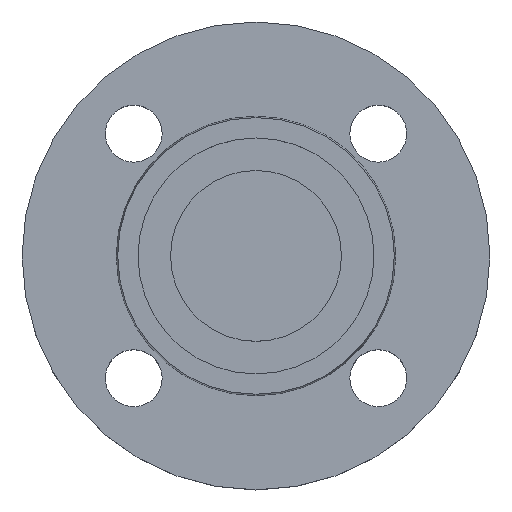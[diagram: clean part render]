
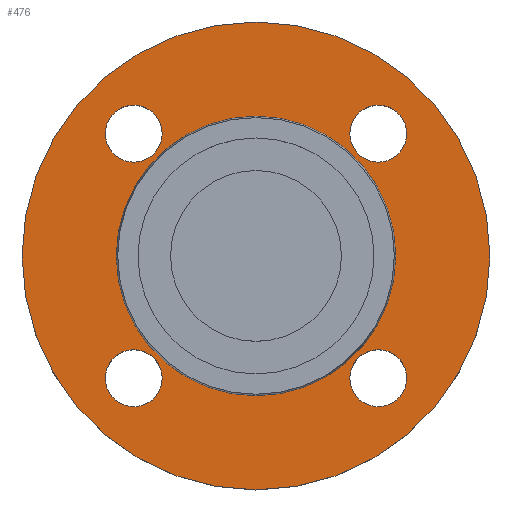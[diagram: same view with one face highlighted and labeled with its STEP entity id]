
A CAD part, top view. The second image highlights one B-rep face of the part: STEP entity #476.
In plain terms, the highlighted planar face has unit normal (0, 0, 1).
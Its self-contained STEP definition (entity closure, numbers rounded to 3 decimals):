
#2 = CARTESIAN_POINT ( 'NONE',  ( 0., 0., -2. ) ) ;
#3 = DIRECTION ( 'NONE',  ( 0., 0., -1. ) ) ;
#20 = DIRECTION ( 'NONE',  ( 1., 0., 0. ) ) ;
#21 = CARTESIAN_POINT ( 'NONE',  ( 57.5, 0., -2. ) ) ;
#26 = CARTESIAN_POINT ( 'NONE',  ( 0., 0., -2. ) ) ;
#27 = DIRECTION ( 'NONE',  ( 0., 0., -1. ) ) ;
#28 = DIRECTION ( 'NONE',  ( -1., 0., 0. ) ) ;
#46 = CIRCLE ( 'NONE', #335, 7. ) ;
#57 = DIRECTION ( 'NONE',  ( 0., 0., -1. ) ) ;
#59 = DIRECTION ( 'NONE',  ( -1., 0., 0. ) ) ;
#60 = DIRECTION ( 'NONE',  ( 0., 0., -1. ) ) ;
#61 = CARTESIAN_POINT ( 'NONE',  ( 0., 0., -2. ) ) ;
#73 = AXIS2_PLACEMENT_3D ( 'NONE', #329, #330, #333 ) ;
#79 = CARTESIAN_POINT ( 'NONE',  ( 30.052, 30.052, -2. ) ) ;
#88 = FACE_BOUND ( 'NONE', #759, .T. ) ;
#89 = AXIS2_PLACEMENT_3D ( 'NONE', #855, #856, #857 ) ;
#94 = FACE_BOUND ( 'NONE', #610, .T. ) ;
#119 = DIRECTION ( 'NONE',  ( -1., 0., 0. ) ) ;
#125 = EDGE_CURVE ( 'NONE', #507, #538, #172, .T. ) ;
#129 = DIRECTION ( 'NONE',  ( 0., 0., -1. ) ) ;
#143 = DIRECTION ( 'NONE',  ( 1., 0., 0. ) ) ;
#144 = DIRECTION ( 'NONE',  ( 0., 0., -1. ) ) ;
#151 = CARTESIAN_POINT ( 'NONE',  ( -30.052, -30.052, -2. ) ) ;
#154 = AXIS2_PLACEMENT_3D ( 'NONE', #250, #257, #256 ) ;
#155 = CARTESIAN_POINT ( 'NONE',  ( -23.052, -30.052, -2. ) ) ;
#164 = CARTESIAN_POINT ( 'NONE',  ( 37.052, -30.052, -2. ) ) ;
#172 = CIRCLE ( 'NONE', #89, 7. ) ;
#192 = AXIS2_PLACEMENT_3D ( 'NONE', #444, #450, #263 ) ;
#195 = CARTESIAN_POINT ( 'NONE',  ( 23.052, -30.052, -2. ) ) ;
#196 = CARTESIAN_POINT ( 'NONE',  ( -37.052, 30.052, -2. ) ) ;
#203 = EDGE_CURVE ( 'NONE', #792, #504, #611, .T. ) ;
#210 = CIRCLE ( 'NONE', #154, 7. ) ;
#215 = FACE_BOUND ( 'NONE', #487, .T. ) ;
#217 = DIRECTION ( 'NONE',  ( 0., 0., -1. ) ) ;
#222 = FACE_OUTER_BOUND ( 'NONE', #742, .T. ) ;
#243 = PLANE ( 'NONE',  #192 ) ;
#250 = CARTESIAN_POINT ( 'NONE',  ( 30.052, 30.052, -2. ) ) ;
#256 = DIRECTION ( 'NONE',  ( 1., 0., 0. ) ) ;
#257 = DIRECTION ( 'NONE',  ( 0., 0., -1. ) ) ;
#262 = CARTESIAN_POINT ( 'NONE',  ( 34.353, 0., -2. ) ) ;
#263 = DIRECTION ( 'NONE',  ( 1., 0., 0. ) ) ;
#278 = DIRECTION ( 'NONE',  ( -1., 0., 0. ) ) ;
#293 = EDGE_CURVE ( 'NONE', #787, #757, #392, .T. ) ;
#299 = CIRCLE ( 'NONE', #395, 34.353 ) ;
#324 = CIRCLE ( 'NONE', #73, 7. ) ;
#329 = CARTESIAN_POINT ( 'NONE',  ( -30.052, 30.052, -2. ) ) ;
#330 = DIRECTION ( 'NONE',  ( 0., 0., -1. ) ) ;
#333 = DIRECTION ( 'NONE',  ( 1., 0., 0. ) ) ;
#335 = AXIS2_PLACEMENT_3D ( 'NONE', #456, #217, #452 ) ;
#336 = AXIS2_PLACEMENT_3D ( 'NONE', #348, #349, #351 ) ;
#342 = CARTESIAN_POINT ( 'NONE',  ( -57.5, 0., -2. ) ) ;
#348 = CARTESIAN_POINT ( 'NONE',  ( 30.052, -30.052, -2. ) ) ;
#349 = DIRECTION ( 'NONE',  ( 0., 0., -1. ) ) ;
#351 = DIRECTION ( 'NONE',  ( 1., 0., 0. ) ) ;
#356 = CIRCLE ( 'NONE', #535, 57.5 ) ;
#363 = EDGE_CURVE ( 'NONE', #504, #792, #324, .T. ) ;
#377 = EDGE_CURVE ( 'NONE', #538, #507, #910, .T. ) ;
#384 = AXIS2_PLACEMENT_3D ( 'NONE', #79, #57, #20 ) ;
#392 = CIRCLE ( 'NONE', #475, 57.5 ) ;
#395 = AXIS2_PLACEMENT_3D ( 'NONE', #26, #27, #28 ) ;
#428 = EDGE_CURVE ( 'NONE', #783, #784, #46, .T. ) ;
#438 = FACE_BOUND ( 'NONE', #488, .T. ) ;
#439 = CIRCLE ( 'NONE', #384, 7. ) ;
#444 = CARTESIAN_POINT ( 'NONE',  ( 34.353, 0., -2. ) ) ;
#446 = CARTESIAN_POINT ( 'NONE',  ( 0., 0., -2. ) ) ;
#450 = DIRECTION ( 'NONE',  ( 0., 0., 1. ) ) ;
#452 = DIRECTION ( 'NONE',  ( 1., 0., 0. ) ) ;
#456 = CARTESIAN_POINT ( 'NONE',  ( -30.052, -30.052, -2. ) ) ;
#458 = EDGE_CURVE ( 'NONE', #495, #788, #728, .T. ) ;
#474 = FACE_BOUND ( 'NONE', #511, .T. ) ;
#475 = AXIS2_PLACEMENT_3D ( 'NONE', #2, #3, #119 ) ;
#476 = ADVANCED_FACE ( 'NONE', ( #88, #215, #94, #474, #438, #222 ), #243, .T. ) ;
#487 = EDGE_LOOP ( 'NONE', ( #628, #629 ) ) ;
#488 = EDGE_LOOP ( 'NONE', ( #636, #637 ) ) ;
#493 = EDGE_CURVE ( 'NONE', #785, #806, #210, .T. ) ;
#495 = VERTEX_POINT ( 'NONE', #262 ) ;
#499 = CARTESIAN_POINT ( 'NONE',  ( -23.052, 30.052, -2. ) ) ;
#504 = VERTEX_POINT ( 'NONE', #196 ) ;
#507 = VERTEX_POINT ( 'NONE', #195 ) ;
#510 = CARTESIAN_POINT ( 'NONE',  ( 37.052, 30.052, -2. ) ) ;
#511 = EDGE_LOOP ( 'NONE', ( #634, #635 ) ) ;
#518 = AXIS2_PLACEMENT_3D ( 'NONE', #151, #144, #143 ) ;
#519 = CIRCLE ( 'NONE', #518, 7. ) ;
#522 = AXIS2_PLACEMENT_3D ( 'NONE', #887, #888, #889 ) ;
#535 = AXIS2_PLACEMENT_3D ( 'NONE', #61, #60, #59 ) ;
#538 = VERTEX_POINT ( 'NONE', #164 ) ;
#565 = EDGE_CURVE ( 'NONE', #784, #783, #519, .T. ) ;
#588 = CARTESIAN_POINT ( 'NONE',  ( -34.353, 0., -2. ) ) ;
#594 = AXIS2_PLACEMENT_3D ( 'NONE', #446, #129, #278 ) ;
#610 = EDGE_LOOP ( 'NONE', ( #631, #632 ) ) ;
#611 = CIRCLE ( 'NONE', #522, 7. ) ;
#626 = ORIENTED_EDGE ( 'NONE', *, *, #377, .T. ) ;
#627 = ORIENTED_EDGE ( 'NONE', *, *, #125, .T. ) ;
#628 = ORIENTED_EDGE ( 'NONE', *, *, #565, .T. ) ;
#629 = ORIENTED_EDGE ( 'NONE', *, *, #428, .T. ) ;
#631 = ORIENTED_EDGE ( 'NONE', *, *, #203, .T. ) ;
#632 = ORIENTED_EDGE ( 'NONE', *, *, #363, .T. ) ;
#634 = ORIENTED_EDGE ( 'NONE', *, *, #684, .T. ) ;
#635 = ORIENTED_EDGE ( 'NONE', *, *, #493, .T. ) ;
#636 = ORIENTED_EDGE ( 'NONE', *, *, #755, .T. ) ;
#637 = ORIENTED_EDGE ( 'NONE', *, *, #458, .T. ) ;
#638 = ORIENTED_EDGE ( 'NONE', *, *, #719, .F. ) ;
#639 = ORIENTED_EDGE ( 'NONE', *, *, #293, .F. ) ;
#665 = CARTESIAN_POINT ( 'NONE',  ( 23.052, 30.052, -2. ) ) ;
#684 = EDGE_CURVE ( 'NONE', #806, #785, #439, .T. ) ;
#719 = EDGE_CURVE ( 'NONE', #757, #787, #356, .T. ) ;
#728 = CIRCLE ( 'NONE', #594, 34.353 ) ;
#741 = CARTESIAN_POINT ( 'NONE',  ( -37.052, -30.052, -2. ) ) ;
#742 = EDGE_LOOP ( 'NONE', ( #638, #639 ) ) ;
#755 = EDGE_CURVE ( 'NONE', #788, #495, #299, .T. ) ;
#757 = VERTEX_POINT ( 'NONE', #21 ) ;
#759 = EDGE_LOOP ( 'NONE', ( #626, #627 ) ) ;
#783 = VERTEX_POINT ( 'NONE', #741 ) ;
#784 = VERTEX_POINT ( 'NONE', #155 ) ;
#785 = VERTEX_POINT ( 'NONE', #665 ) ;
#787 = VERTEX_POINT ( 'NONE', #342 ) ;
#788 = VERTEX_POINT ( 'NONE', #588 ) ;
#792 = VERTEX_POINT ( 'NONE', #499 ) ;
#806 = VERTEX_POINT ( 'NONE', #510 ) ;
#855 = CARTESIAN_POINT ( 'NONE',  ( 30.052, -30.052, -2. ) ) ;
#856 = DIRECTION ( 'NONE',  ( 0., 0., -1. ) ) ;
#857 = DIRECTION ( 'NONE',  ( 1., 0., 0. ) ) ;
#887 = CARTESIAN_POINT ( 'NONE',  ( -30.052, 30.052, -2. ) ) ;
#888 = DIRECTION ( 'NONE',  ( 0., 0., -1. ) ) ;
#889 = DIRECTION ( 'NONE',  ( 1., 0., 0. ) ) ;
#910 = CIRCLE ( 'NONE', #336, 7. ) ;
